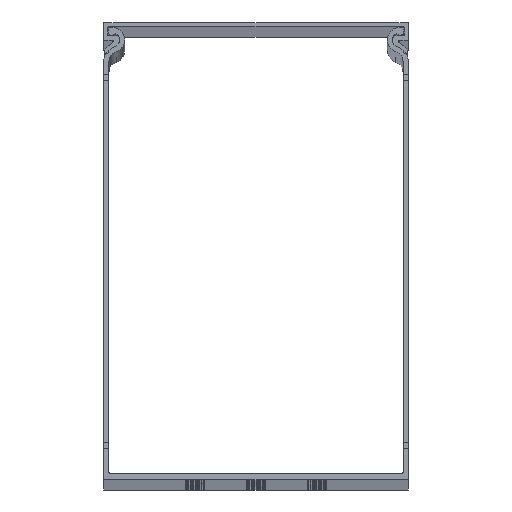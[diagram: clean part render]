
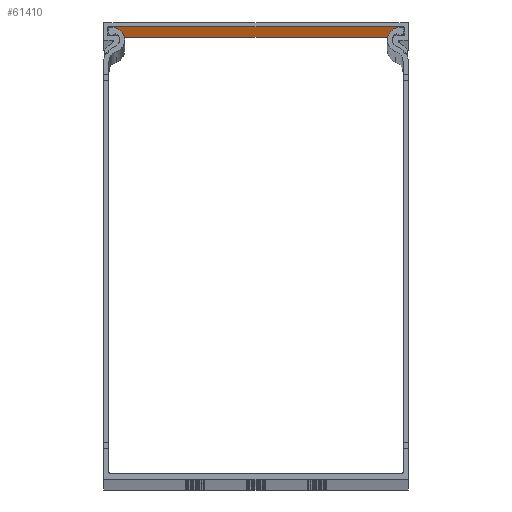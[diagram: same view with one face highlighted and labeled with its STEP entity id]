
A CAD part, top view. The second image highlights one B-rep face of the part: STEP entity #61410.
In plain terms, the highlighted planar face has unit normal (0, -1, 0).
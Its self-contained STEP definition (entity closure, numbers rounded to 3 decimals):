
#2076 = EDGE_CURVE ( 'NONE', #45547, #51361, #59311, .T. ) ;
#2935 = FACE_OUTER_BOUND ( 'NONE', #8308, .T. ) ;
#7983 = CARTESIAN_POINT ( 'NONE',  ( 2616.807, 1295.656, 2000. ) ) ;
#8308 = EDGE_LOOP ( 'NONE', ( #59025, #11531, #42421, #22440 ) ) ;
#8431 = VERTEX_POINT ( 'NONE', #20966 ) ;
#11531 = ORIENTED_EDGE ( 'NONE', *, *, #14986, .F. ) ;
#14986 = EDGE_CURVE ( 'NONE', #8431, #51361, #36377, .T. ) ;
#16337 = PLANE ( 'NONE',  #16677 ) ;
#16677 = AXIS2_PLACEMENT_3D ( 'NONE', #26871, #53731, #21816 ) ;
#20966 = CARTESIAN_POINT ( 'NONE',  ( 2616.807, 1295.656, 2000. ) ) ;
#21816 = DIRECTION ( 'NONE',  ( 0., 0., 1. ) ) ;
#22440 = ORIENTED_EDGE ( 'NONE', *, *, #58875, .T. ) ;
#23530 = DIRECTION ( 'NONE',  ( 0., 0., -1. ) ) ;
#23825 = DIRECTION ( 'NONE',  ( 0., 0., -1. ) ) ;
#26871 = CARTESIAN_POINT ( 'NONE',  ( 2568.407, 1295.656, 2000. ) ) ;
#31345 = LINE ( 'NONE', #43553, #39548 ) ;
#36377 = LINE ( 'NONE', #7983, #62618 ) ;
#39548 = VECTOR ( 'NONE', #23530, 1000. ) ;
#42421 = ORIENTED_EDGE ( 'NONE', *, *, #58241, .F. ) ;
#43553 = CARTESIAN_POINT ( 'NONE',  ( 2520.007, 1295.656, 2000. ) ) ;
#43893 = DIRECTION ( 'NONE',  ( 1., 0., 0. ) ) ;
#45547 = VERTEX_POINT ( 'NONE', #54359 ) ;
#48430 = CARTESIAN_POINT ( 'NONE',  ( 2520.007, 1295.656, 2000. ) ) ;
#48472 = CARTESIAN_POINT ( 'NONE',  ( 2568.407, 1295.656, 2000. ) ) ;
#48689 = DIRECTION ( 'NONE',  ( 1., 0., 0. ) ) ;
#51361 = VERTEX_POINT ( 'NONE', #62521 ) ;
#53731 = DIRECTION ( 'NONE',  ( 0., 1., 0. ) ) ;
#54359 = CARTESIAN_POINT ( 'NONE',  ( 2520.007, 1295.656, 0. ) ) ;
#57683 = LINE ( 'NONE', #48472, #61786 ) ;
#58241 = EDGE_CURVE ( 'NONE', #65630, #8431, #57683, .T. ) ;
#58875 = EDGE_CURVE ( 'NONE', #65630, #45547, #31345, .T. ) ;
#59025 = ORIENTED_EDGE ( 'NONE', *, *, #2076, .T. ) ;
#59311 = LINE ( 'NONE', #64586, #64262 ) ;
#61410 = ADVANCED_FACE ( 'NONE', ( #2935 ), #16337, .F. ) ;
#61786 = VECTOR ( 'NONE', #48689, 1000. ) ;
#62521 = CARTESIAN_POINT ( 'NONE',  ( 2616.807, 1295.656, 0. ) ) ;
#62618 = VECTOR ( 'NONE', #23825, 1000. ) ;
#64262 = VECTOR ( 'NONE', #43893, 1000. ) ;
#64586 = CARTESIAN_POINT ( 'NONE',  ( 2568.407, 1295.656, 0. ) ) ;
#65630 = VERTEX_POINT ( 'NONE', #48430 ) ;
